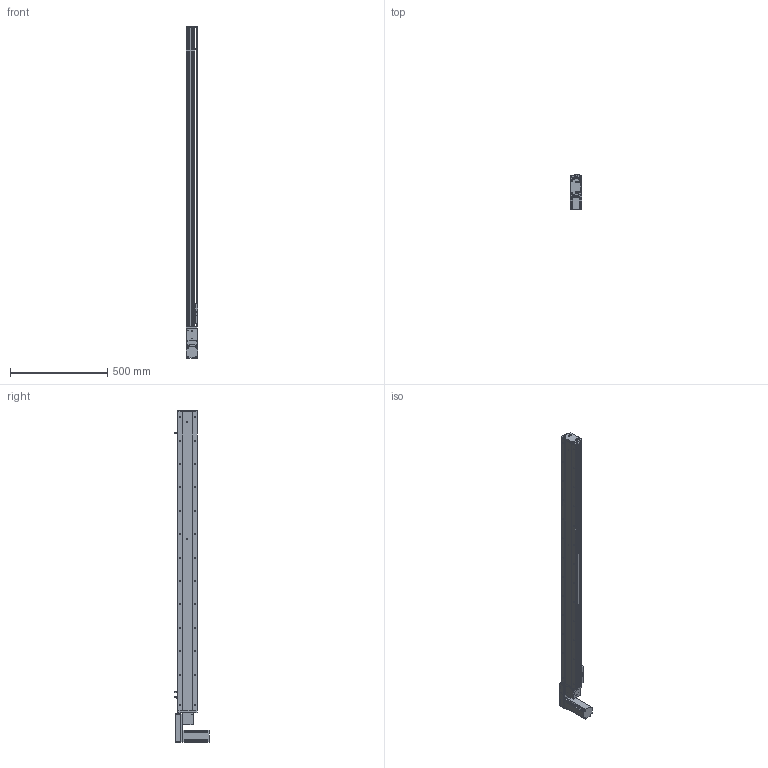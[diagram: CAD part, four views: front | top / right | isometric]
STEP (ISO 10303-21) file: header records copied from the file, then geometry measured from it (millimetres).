
FILE_DESCRIPTION (( 'STEP AP214' ), '1' );
FILE_NAME ('KSD100B-S1350-MLB-CM.STEP', '2019-11-09T06:37:48', ( '微软用户' ), ( '微软中国' ), 'SwSTEP 2.0', 'SolidWorks 2014', '' );
FILE_SCHEMA (( 'AUTOMOTIVE_DESIGN' ));
Length unit declared in the file: millimetre
Products named in the file (12): 100宽马达安装板连板上下折丝杆同步带; 台达ECMA－C20604AS伺服电机; U倰嫖萇EEㄜSX672; 覜茼え100遵圉猾敕; 100宽防尘板1350行程-同步带; 100宽马达安装板同步带左; 100宽同步带安装板半封闭; 100宽马达安装板同步带; 100遵傷啣肮祭湍; 100宽底板半封闭同步带1350行程; KSD100B-S1350-MLB-CM; 悵誘欶奻狟殏
Assembly tree (13 placements, depth 2):
  KSD100B-S1350-MLB-CM
    100宽底板半封闭同步带1350行程
    100遵傷啣肮祭湍
    100宽马达安装板同步带
    100宽同步带安装板半封闭
    100宽马达安装板同步带左
    100宽防尘板1350行程-同步带
    覜茼え100遵圉猾敕
    U倰嫖萇EEㄜSX672  x3
    台达ECMA－C20604AS伺服电机
    100宽马达安装板连板上下折丝杆同步带
    悵誘欶奻狟殏
Bounding box: 61 x 174.7 x 1703 mm (x, y, z)
Volume: 3492318.8 mm3; surface area: 1179592.9 mm2
Topology: 14 solids, 14 shells, 1571 faces, 4438 edges, 2807 vertices
Faces by surface type: cylinder 805, plane 603, cone 163
Entity records: 56779 total; most frequent: CARTESIAN_POINT 11706, DIRECTION 7726, ORIENTED_EDGE 7456, EDGE_CURVE 3728, AXIS2_PLACEMENT_3D 2837, VERTEX_POINT 2431, LINE 2052, VECTOR 2052
